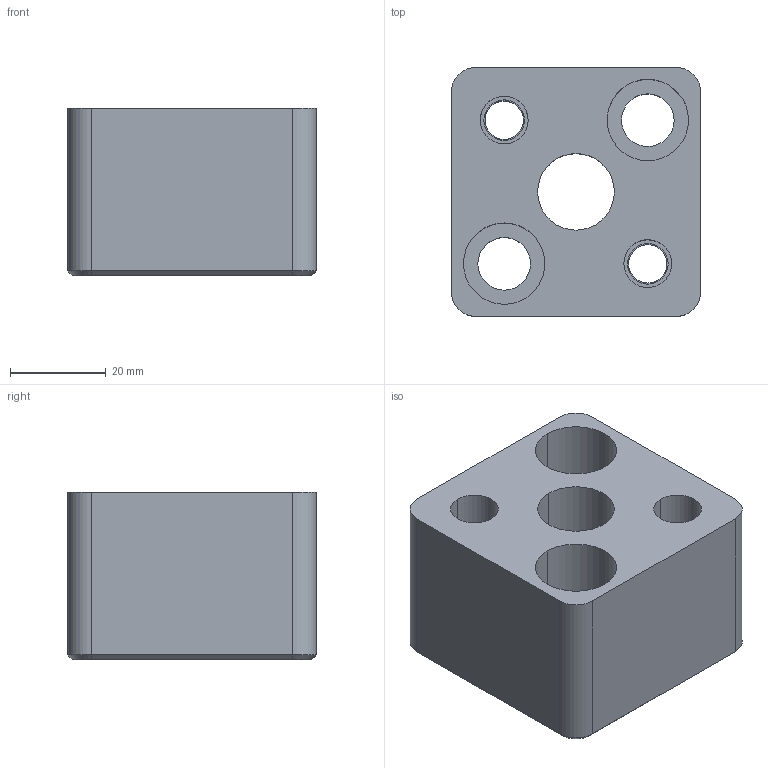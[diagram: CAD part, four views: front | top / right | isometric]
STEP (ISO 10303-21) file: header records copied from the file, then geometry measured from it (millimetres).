
FILE_DESCRIPTION(/* description */ (''),/* implementation_level */ '2;1');
FILE_NAME(/* name */ '3d_hsa-an16_04172_r00.stp',/* time_stamp */ '2011-01-10T14:14:37+09:00',/* author */ ('MISUMI'),/* organization */ (''),/* preprocessor_version */ 'ST-DEVELOPER v11',/* originating_system */ 'UGS - NX 5.0',/* authorisation */ '');
FILE_SCHEMA (('CONFIG_CONTROL_DESIGN'));
Length unit declared in the file: millimetre
Products named in the file (1): 3d_hsa-an16_04172_r00
Bounding box: 52 x 52 x 35 mm (x, y, z)
Volume: 69544.2 mm3; surface area: 18185.7 mm2
Topology: 1 solids, 1 shells, 51 faces, 116 edges, 74 vertices
Faces by surface type: cylinder 28, plane 17, cone 6
Entity records: 1563 total; most frequent: DIRECTION 277, CARTESIAN_POINT 257, ORIENTED_EDGE 232, EDGE_CURVE 116, AXIS2_PLACEMENT_3D 114, VERTEX_POINT 74, EDGE_LOOP 68, CIRCLE 62
